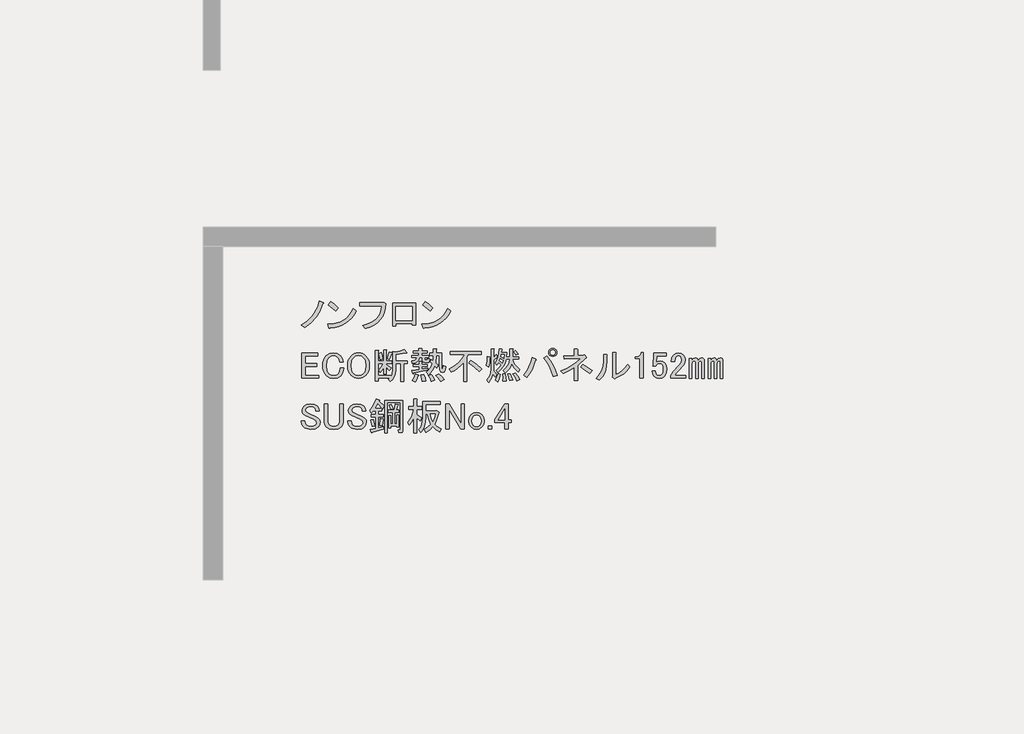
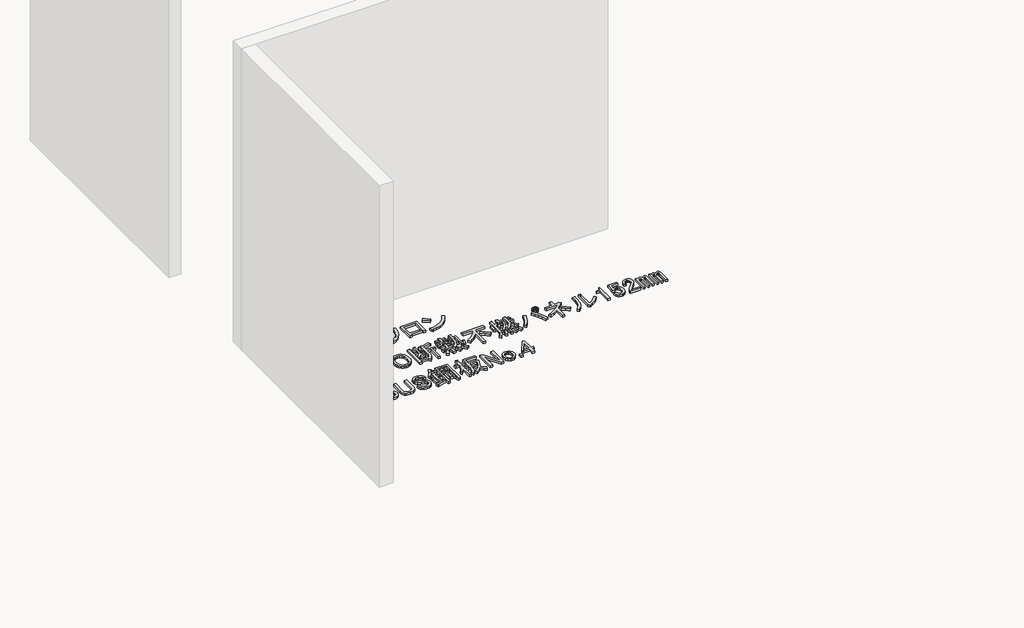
# One storey, part 55 of 117: 1 proxy.
"""IFC4 building model written with IfcOpenShell, lengths in millimetres."""

from ifc_helpers import new_model, si_unit, frame, origin, place, context, project, spatial, polyline, outline, extrude, element, save

model = new_model("IFC4")

# Units and contexts
model_context = context("Model", 3, world=origin())
ifc_project = project(units=[si_unit("LENGTHUNIT", "METRE", prefix="MILLI")], contexts=[model_context])

# Site, building, storey
site = spatial("IfcSite", under=ifc_project)
building = spatial("IfcBuilding", under=site)
storey = spatial("IfcBuildingStorey", under=building, Name="レベル 1", Elevation=500.0)

# Proxy
placement = place(None, origin())
element("IfcBuildingElementProxy", 1, Name="200㎜\u3000MS Pゴシック", ObjectType="200㎜\u3000MS Pゴシック", at=placement, inside=storey, context=model_context, shape_type="SweptSolid", body=[
    extrude(outline(polyline([(48940.1706985, -16603.5496882), (48914.5952502, -16663.3215225), (48886.146156, -16709.2998566), (48844.4782907, -16754.7034615), (48795.3389462, -16792.060858), (48767.7519457, -16770.2211493), (48815.4544673, -16739.7605029), (48855.1107805, -16701.2536481), (48872.4963381, -16677.3305462), (48887.8703435, -16649.2406577), (48901.2327969, -16616.9839827), (48912.5836981, -16580.5605212), (48943.6190736, -16594.3540214), (48946.7800841, -16598.9518548), (48940.1706985, -16603.5496882)])), frame((0.0, 0.0, 500.0), z_axis=(0.0, 0.0, 1.0), x_axis=(1.0, 0.0, 0.0)), (0.0, 0.0, 1.0), 25.0),
    extrude(outline(polyline([(49039.8977052, -16658.7236891), (48981.2753292, -16611.5958967), (49000.8161212, -16587.4572713), (49028.1157571, -16607.2854279), (49061.7374138, -16636.8839804), (49039.8977052, -16658.7236891)])), frame((0.0, 0.0, 500.0), z_axis=(0.0, 0.0, 1.0), x_axis=(1.0, 0.0, 0.0)), (0.0, 0.0, 1.0), 25.0),
    extrude(outline(polyline([(49201.9713328, -16658.7236891), (49185.447869, -16688.465924), (49166.3381239, -16714.4724192), (49144.6420975, -16736.7431748), (49120.3597898, -16755.2781907), (49093.4912008, -16770.077467), (49064.0363306, -16781.1410036), (49031.995179, -16788.4688006), (48997.3677461, -16792.060858), (48991.6204544, -16800.1070664), (48985.8731626, -16794.3597747), (48976.6774958, -16764.4738575), (49012.5082679, -16761.7977748), (49045.2857912, -16755.4937141), (49075.0100658, -16745.5616756), (49101.6810916, -16732.0016591), (49125.2988687, -16714.8136646), (49145.863397, -16693.9976923), (49163.3746766, -16669.553742), (49177.8327074, -16641.4818138), (49201.9713328, -16658.7236891)])), frame((0.0, 0.0, 500.0), z_axis=(0.0, 0.0, 1.0), x_axis=(1.0, 0.0, 0.0)), (0.0, 0.0, 1.0), 25.0),
    extrude(outline(polyline([(49252.7314136, -16773.6695243), (49286.514713, -16763.9889298), (49316.0234641, -16751.6142922), (49341.257667, -16736.5456116), (49362.2173217, -16718.782888), (49378.902428, -16698.3261214), (49391.3129862, -16675.1753118), (49399.4489961, -16649.3304591), (49403.3104577, -16620.7915635), (49230.8917049, -16620.7915635), (49230.8917049, -16595.5034798), (49405.6093744, -16595.5034798), (49421.7017914, -16592.0551047), (49434.3458332, -16603.5496882), (49430.825617, -16640.0449909), (49422.5638851, -16673.0919185), (49409.5606375, -16702.6904711), (49391.8158742, -16728.8406486), (49369.3295952, -16751.542451), (49342.1018005, -16770.7958784), (49310.1324901, -16786.6009308), (49273.421664, -16798.9576081), (49252.7314136, -16773.6695243)])), frame((0.0, 0.0, 500.0), z_axis=(0.0, 0.0, 1.0), x_axis=(1.0, 0.0, 0.0)), (0.0, 0.0, 1.0), 25.0),
    extrude(outline(polyline([(49667.455987, -16772.520066), (49641.0184449, -16772.520066), (49641.0184449, -16759.8760241), (49513.4285679, -16759.8760241), (49513.4285679, -16778.2673577), (49486.9910258, -16778.2673577), (49486.9910258, -16598.9518548), (49667.455987, -16598.9518548), (49667.455987, -16772.520066)]), holes=[polyline([(49513.4285679, -16624.2399386), (49513.4285679, -16734.5879404), (49641.0184449, -16734.5879404), (49641.0184449, -16624.2399386), (49513.4285679, -16624.2399386)])]), frame((0.0, 0.0, 500.0), z_axis=(0.0, 0.0, 1.0), x_axis=(1.0, 0.0, 0.0)), (0.0, 0.0, 1.0), 25.0),
    extrude(outline(polyline([(49943.5099049, -16658.7236891), (49926.9864411, -16688.465924), (49907.876696, -16714.4724192), (49886.1806696, -16736.7431748), (49861.8983619, -16755.2781907), (49835.0297729, -16770.077467), (49805.5749026, -16781.1410036), (49773.5337511, -16788.4688006), (49738.9063182, -16792.060858), (49733.1590264, -16800.1070664), (49727.4117347, -16794.3597747), (49718.2160679, -16764.4738575), (49754.0468399, -16761.7977748), (49786.8243633, -16755.4937141), (49816.5486378, -16745.5616756), (49843.2196637, -16732.0016591), (49866.8374407, -16714.8136646), (49887.4019691, -16693.9976923), (49904.9132486, -16669.553742), (49919.3712795, -16641.4818138), (49943.5099049, -16658.7236891)])), frame((0.0, 0.0, 500.0), z_axis=(0.0, 0.0, 1.0), x_axis=(1.0, 0.0, 0.0)), (0.0, 0.0, 1.0), 25.0),
    extrude(outline(polyline([(49781.4362772, -16658.7236891), (49722.8139013, -16611.5958967), (49742.3546933, -16587.4572713), (49769.6543291, -16607.2854279), (49803.2759859, -16636.8839804), (49781.4362772, -16658.7236891)])), frame((0.0, 0.0, 500.0), z_axis=(0.0, 0.0, 1.0), x_axis=(1.0, 0.0, 0.0)), (0.0, 0.0, 1.0), 25.0),
    extrude(outline(polyline([(48773.4992375, -16992.0551047), (48899.9396562, -16992.0551047), (48899.9396562, -17013.8948134), (48799.9367796, -17013.8948134), (48799.9367796, -17074.816106), (48893.0429061, -17074.816106), (48893.0429061, -17096.6558147), (48799.9367796, -17096.6558147), (48799.9367796, -17166.7727742), (48905.686948, -17166.7727742), (48905.686948, -17188.6124829), (48773.4992375, -17188.6124829), (48773.4992375, -16992.0551047)])), frame((0.0, 0.0, 500.0), z_axis=(0.0, 0.0, 1.0), x_axis=(1.0, 0.0, 0.0)), (0.0, 0.0, 1.0), 25.0),
    extrude(outline(polyline([(48937.7798252, -17090.908523), (48939.5758538, -17066.985421), (48944.9639399, -17045.7922827), (48953.9440832, -17027.3291079), (48966.516284, -17011.5958967), (48991.5170031, -16995.2161152), (49022.8397432, -16989.756188), (49053.5877541, -16994.641386), (49076.8642858, -17009.29698), (49092.6693381, -17032.8608762), (49098.7039944, -17062.1720642), (49071.116994, -17062.1720642), (49066.231796, -17040.9070847), (49056.1740354, -17025.3893969), (49040.9437123, -17015.0442717), (49022.8397432, -17011.5958967), (49003.2989512, -17015.6190009), (48986.0570759, -17027.6883136), (48977.0050914, -17039.3984206), (48970.5393882, -17053.8384911), (48965.3668256, -17090.908523), (48970.5393882, -17127.9785548), (48977.0050914, -17142.4186254), (48986.0570759, -17154.1287323), (49002.7242221, -17165.3359513), (49022.8397432, -17169.0716909), (49043.242629, -17165.9106804), (49058.4729521, -17156.427649), (49070.5422648, -17136.8868571), (49074.5653691, -17110.449315), (49102.1523695, -17110.449315), (49095.8303486, -17145.2204301), (49088.7899162, -17159.3731361), (49079.1632025, -17171.3706076), (49068.3151893, -17179.9197041), (49055.3119417, -17186.0262016), (49022.8397432, -17190.9113996), (48991.5170031, -17185.4514724), (48966.516284, -17169.0716909), (48953.9440832, -17153.4103209), (48944.9639399, -17135.1626695), (48939.5758538, -17114.3287369), (48937.7798252, -17090.908523)])), frame((0.0, 0.0, 500.0), z_axis=(0.0, 0.0, 1.0), x_axis=(1.0, 0.0, 0.0)), (0.0, 0.0, 1.0), 25.0),
    extrude(outline(polyline([(49133.1417667, -17089.7590646), (49134.8659542, -17066.9135799), (49140.0385168, -17046.6543764), (49148.6594544, -17028.9814543), (49160.7287671, -17013.8948134), (49173.4446501, -17003.3341648), (49187.4536738, -16995.7908443), (49202.7558381, -16991.2648521), (49219.3511431, -16989.756188), (49235.946448, -16991.2648521), (49251.2486123, -16995.7908443), (49265.257636, -17003.3341648), (49277.973519, -17013.8948134), (49290.0428317, -17028.9814543), (49298.6637694, -17046.6543764), (49303.836332, -17066.9135799), (49305.5605195, -17089.7590646), (49303.836332, -17112.6045494), (49298.6637694, -17132.8637528), (49290.0428317, -17150.536675), (49277.973519, -17165.6233159), (49265.257636, -17176.1839645), (49251.2486123, -17183.7272849), (49235.946448, -17188.2532772), (49219.3511431, -17189.7619413), (49202.7558381, -17188.2532772), (49187.4536738, -17183.7272849), (49173.4446501, -17176.1839645), (49160.7287671, -17165.6233159), (49148.6594544, -17150.536675), (49140.0385168, -17132.8637528), (49134.8659542, -17112.6045494), (49133.1417667, -17089.7590646)]), holes=[polyline([(49219.3511431, -17011.5958967), (49198.6608927, -17015.9063655), (49180.2695591, -17028.837772), (49171.7204626, -17039.9731498), (49165.6139651, -17053.8384911), (49160.7287671, -17089.7590646), (49165.6139651, -17125.6796381), (49171.7204626, -17139.5449795), (49180.2695591, -17150.6803573), (49198.6608927, -17163.6117637), (49219.3511431, -17167.9222326), (49240.0413934, -17163.6117637), (49258.432727, -17150.6803573), (49266.9818235, -17139.5449795), (49273.088321, -17125.6796381), (49277.973519, -17089.7590646), (49273.088321, -17053.8384911), (49266.9818235, -17039.9731498), (49258.432727, -17028.837772), (49240.0413934, -17015.9063655), (49219.3511431, -17011.5958967)])]), frame((0.0, 0.0, 500.0), z_axis=(0.0, 0.0, 1.0), x_axis=(1.0, 0.0, 0.0)), (0.0, 0.0, 1.0), 25.0),
    extrude(outline(polyline([(49444.3691101, -17035.7345221), (49461.6109854, -16982.8594379), (49482.3012357, -16988.6067296), (49484.0254232, -16991.7677401), (49480.002319, -16994.3540214), (49462.7604437, -17042.6312722), (49444.3691101, -17035.7345221)])), frame((0.0, 0.0, 500.0), z_axis=(0.0, 0.0, 1.0), x_axis=(1.0, 0.0, 0.0)), (0.0, 0.0, 1.0), 25.0),
    extrude(outline(polyline([(49598.3965292, -16987.4572713), (49596.6723417, -16992.0551047), (49589.2008624, -16989.756188), (49512.1871528, -17002.4002299), (49512.1871528, -17051.826939), (49604.143821, -17051.826939), (49604.143821, -17073.6666477), (49573.1084455, -17073.6666477), (49573.1084455, -17213.9005666), (49550.1192785, -17213.9005666), (49550.1192785, -17073.6666477), (49512.1871528, -17073.6666477), (49512.1871528, -17123.0933568), (49509.6008716, -17150.8958807), (49501.8420277, -17175.6810764), (49488.9106212, -17197.448944), (49470.8066522, -17216.1994833), (49453.5647769, -17196.6586914), (49463.9099021, -17187.4630245), (49374.2521506, -17187.4630245), (49374.2521506, -17209.3027332), (49351.2629836, -17209.3027332), (49351.2629836, -16970.215396), (49373.1026922, -16970.215396), (49377.9878902, -16972.5143127), (49374.2521506, -16977.1121461), (49374.2521506, -17052.9763974), (49416.7821096, -17052.9763974), (49416.7821096, -16965.6175626), (49435.1734433, -16965.6175626), (49440.0586413, -16967.9164793), (49436.3229016, -16972.5143127), (49436.3229016, -17052.9763974), (49480.002319, -17052.9763974), (49480.002319, -17071.367731), (49436.3229016, -17071.367731), (49436.3229016, -17080.5633978), (49476.5539439, -17107.0009399), (49462.7604437, -17128.8406486), (49436.3229016, -17102.4031065), (49436.3229016, -17155.2781907), (49416.7821096, -17155.2781907), (49416.7821096, -17107.0009399), (49403.5633386, -17126.8290965), (49389.1951092, -17142.6341488), (49376.5510673, -17124.2428152), (49398.390776, -17100.1041898), (49415.6326513, -17071.367731), (49374.2521506, -17071.367731), (49374.2521506, -17165.6233159), (49471.9561105, -17165.6233159), (49471.9561105, -17179.4168161), (49484.887517, -17155.2781907), (49489.1979858, -17121.9438985), (49489.1979858, -16977.1121461), (49511.0376945, -16982.8594379), (49547.2456326, -16975.3879586), (49577.7062789, -16962.1691875), (49598.3965292, -16987.4572713)])), frame((0.0, 0.0, 500.0), z_axis=(0.0, 0.0, 1.0), x_axis=(1.0, 0.0, 0.0)), (0.0, 0.0, 1.0), 25.0),
    extrude(outline(polyline([(49390.3445675, -17043.7807305), (49377.7005257, -16993.2045631), (49397.2413176, -16986.3078129), (49405.0001615, -17010.4464383), (49409.8853595, -17036.8839804), (49390.3445675, -17043.7807305)])), frame((0.0, 0.0, 500.0), z_axis=(0.0, 0.0, 1.0), x_axis=(1.0, 0.0, 0.0)), (0.0, 0.0, 1.0), 25.0),
    extrude(outline(polyline([(49734.0326148, -17159.8760241), (49744.0903754, -17187.17566), (49748.9755734, -17209.3027332), (49720.2391146, -17215.050025), (49717.6528333, -17193.4976809), (49709.8939894, -17163.3243992), (49734.0326148, -17159.8760241)])), frame((0.0, 0.0, 500.0), z_axis=(0.0, 0.0, 1.0), x_axis=(1.0, 0.0, 0.0)), (0.0, 0.0, 1.0), 25.0),
    extrude(outline(polyline([(49790.356074, -17212.7511083), (49782.022501, -17188.0377537), (49768.5163654, -17166.7727742), (49789.2066157, -17158.7265657), (49806.1611264, -17180.2789098), (49817.9430745, -17203.5554415), (49790.356074, -17212.7511083)])), frame((0.0, 0.0, 500.0), z_axis=(0.0, 0.0, 1.0), x_axis=(1.0, 0.0, 0.0)), (0.0, 0.0, 1.0), 25.0),
    extrude(outline(polyline([(49689.2037391, -17164.4738575), (49692.6521141, -17169.3590555), (49686.9048224, -17172.520066), (49677.1344264, -17198.0955143), (49666.214572, -17217.3489417), (49643.225405, -17205.8543582), (49655.8694469, -17182.290462), (49666.214572, -17155.2781907), (49689.2037391, -17164.4738575)])), frame((0.0, 0.0, 500.0), z_axis=(0.0, 0.0, 1.0), x_axis=(1.0, 0.0, 0.0)), (0.0, 0.0, 1.0), 25.0),
    extrude(outline(polyline([(49721.3885729, -17027.6883136), (49696.1004892, -17027.6883136), (49691.5026558, -17045.1457123), (49681.1575306, -17058.4363245), (49665.0651137, -17067.5601502), (49643.225405, -17072.5171893), (49638.6275716, -17052.9763974), (49663.9156553, -17044.3554597), (49671.3871346, -17037.0276627), (49675.4102388, -17027.6883136), (49639.7770299, -17027.6883136), (49639.7770299, -17009.29698), (49693.8015725, -17009.29698), (49693.8015725, -16992.0551047), (49650.1221551, -16992.0551047), (49650.1221551, -16973.6637711), (49693.8015725, -16973.6637711), (49693.8015725, -16955.2724374), (49715.6412812, -16955.2724374), (49720.5264792, -16957.5713541), (49716.7907395, -16962.1691875), (49716.7907395, -16973.6637711), (49759.3206985, -16973.6637711), (49759.3206985, -16992.0551047), (49716.7907395, -16992.0551047), (49716.7907395, -17009.29698), (49769.6658237, -17009.29698), (49769.6658237, -17027.6883136), (49740.9293649, -17027.6883136), (49740.9293649, -17040.3323555), (49742.3661878, -17045.5049181), (49746.6766567, -17047.2291056), (49757.0217818, -17047.2291056), (49760.7575215, -17044.0680951), (49760.4701569, -17034.5850637), (49780.0109489, -17036.8839804), (49777.137303, -17058.4363245), (49771.8210581, -17063.8244106), (49763.9185319, -17065.6204392), (49739.7799066, -17065.6204392), (49725.9864063, -17060.7352412), (49721.3885729, -17046.0796472), (49721.3885729, -17027.6883136)])), frame((0.0, 0.0, 500.0), z_axis=(0.0, 0.0, 1.0), x_axis=(1.0, 0.0, 0.0)), (0.0, 0.0, 1.0), 25.0),
    extrude(outline(polyline([(49852.4268251, -17010.4464383), (49830.5871164, -17010.4464383), (49825.989283, -17067.9193559), (49845.5300749, -17086.3106896), (49835.1849498, -17108.1503983), (49819.0925328, -17092.0579813), (49799.8391054, -17129.7027424), (49769.6658237, -17162.1749408), (49752.4239484, -17141.4846905), (49767.5105893, -17129.5590601), (49780.585678, -17114.4724192), (49791.6492147, -17096.2247679), (49800.7011992, -17074.816106), (49783.4593239, -17059.8731475), (49791.5055324, -17042.6312722), (49805.2990326, -17052.9763974), (49807.5979493, -17010.4464383), (49780.0109489, -17010.4464383), (49780.0109489, -16992.0551047), (49807.5979493, -16992.0551047), (49807.5979493, -16957.5713541), (49829.437658, -16957.5713541), (49834.322856, -16959.8702708), (49830.5871164, -16964.4681043), (49830.5871164, -16992.0551047), (49871.967617, -16992.0551047), (49871.967617, -17088.6096063), (49875.4159921, -17112.7482317), (49878.6488437, -17114.7597838), (49881.4506484, -17111.5987733), (49885.7611173, -17089.7590646), (49905.3019092, -17096.6558147), (49900.775917, -17123.4525626), (49892.945232, -17139.4731384), (49881.8098542, -17144.7175421), (49867.3697836, -17139.1857738), (49860.8322393, -17131.8579768), (49856.1625647, -17120.219711), (49852.4268251, -17084.0117729), (49852.4268251, -17010.4464383)])), frame((0.0, 0.0, 500.0), z_axis=(0.0, 0.0, 1.0), x_axis=(1.0, 0.0, 0.0)), (0.0, 0.0, 1.0), 25.0),
    extrude(outline(polyline([(49651.2716134, -17149.5308989), (49649.2600613, -17154.4160969), (49645.5243217, -17152.979274), (49639.7770299, -17128.8406486), (49694.9510308, -17120.7944401), (49694.9510308, -17097.8052731), (49651.2716134, -17097.8052731), (49651.2716134, -17079.4139395), (49694.9510308, -17079.4139395), (49694.9510308, -17056.4247724), (49713.3423645, -17056.4247724), (49718.2275625, -17058.7236891), (49714.4918228, -17063.3215225), (49714.4918228, -17079.4139395), (49759.3206985, -17079.4139395), (49759.3206985, -17097.8052731), (49714.4918228, -17097.8052731), (49714.4918228, -17117.3460651), (49765.0679903, -17108.1503983), (49765.0679903, -17124.2428152), (49651.2716134, -17149.5308989)])), frame((0.0, 0.0, 500.0), z_axis=(0.0, 0.0, 1.0), x_axis=(1.0, 0.0, 0.0)), (0.0, 0.0, 1.0), 25.0),
    extrude(outline(polyline([(49848.97845, -17154.1287323), (49873.6918046, -17175.3937119), (49892.6578674, -17200.1070664), (49866.2203253, -17215.050025), (49846.9668979, -17185.4514724), (49828.2881997, -17165.6233159), (49848.97845, -17154.1287323)])), frame((0.0, 0.0, 500.0), z_axis=(0.0, 0.0, 1.0), x_axis=(1.0, 0.0, 0.0)), (0.0, 0.0, 1.0), 25.0),
    extrude(outline(polyline([(50167.3784135, -17138.0363154), (50128.2968295, -17099.8168252), (50086.9163289, -17070.2182726), (50103.0087458, -17049.5280223), (50146.6881632, -17077.6897519), (50188.0686638, -17116.1966067), (50167.3784135, -17138.0363154)])), frame((0.0, 0.0, 500.0), z_axis=(0.0, 0.0, 1.0), x_axis=(1.0, 0.0, 0.0)), (0.0, 0.0, 1.0), 25.0),
    extrude(outline(polyline([(49940.9351182, -16977.1121461), (50182.3213721, -16977.1121461), (50182.3213721, -17002.4002299), (50082.3184955, -17002.4002299), (50071.9733703, -17026.5388553), (50071.9733703, -17212.7511083), (50045.5358282, -17212.7511083), (50045.5358282, -17065.6204392), (50024.7018956, -17088.8969709), (50001.2816816, -17109.2998566), (49975.2751864, -17126.8290965), (49946.6824099, -17141.4846905), (49930.589993, -17115.0471484), (49970.174465, -17094.6442626), (50003.8679629, -17069.0688143), (50031.6704868, -17038.3208034), (50053.5820367, -17002.4002299), (49940.9351182, -17002.4002299), (49940.9351182, -16977.1121461)])), frame((0.0, 0.0, 500.0), z_axis=(0.0, 0.0, 1.0), x_axis=(1.0, 0.0, 0.0)), (0.0, 0.0, 1.0), 25.0),
    extrude(outline(polyline([(50354.7401249, -17211.6016499), (50355.3148541, -17184.5893787), (50352.4412082, -17156.427649), (50371.9820002, -17155.2781907), (50378.3040211, -17181.4283682), (50378.8787503, -17209.3027332), (50354.7401249, -17211.6016499)])), frame((0.0, 0.0, 500.0), z_axis=(0.0, 0.0, 1.0), x_axis=(1.0, 0.0, 0.0)), (0.0, 0.0, 1.0), 25.0),
    extrude(outline(polyline([(50335.1993329, -17159.8760241), (50326.5783953, -17190.3366704), (50312.2101659, -17217.3489417), (50292.6693739, -17204.7048998), (50306.7502387, -17179.9915453), (50316.8079993, -17151.8298156), (50335.1993329, -17159.8760241)])), frame((0.0, 0.0, 500.0), z_axis=(0.0, 0.0, 1.0), x_axis=(1.0, 0.0, 0.0)), (0.0, 0.0, 1.0), 25.0),
    extrude(outline(polyline([(50250.1394149, -17021.9410219), (50254.7372483, -17024.2399386), (50250.1394149, -17028.837772), (50248.9899565, -17068.4940851), (50243.2426647, -17102.4031065), (50224.8513311, -17089.7590646), (50230.5986229, -17055.2753141), (50231.7480812, -17018.4926468), (50250.1394149, -17021.9410219)])), frame((0.0, 0.0, 500.0), z_axis=(0.0, 0.0, 1.0), x_axis=(1.0, 0.0, 0.0)), (0.0, 0.0, 1.0), 25.0),
    extrude(outline(polyline([(50301.8650407, -17003.5496882), (50311.0607075, -17020.7915635), (50312.4975305, -17026.8262199), (50307.6123325, -17026.5388553), (50281.1747904, -17047.2291056), (50281.1747904, -17131.1395653), (50294.9682906, -17143.4962426), (50306.4628741, -17159.8760241), (50293.8188322, -17180.5662744), (50275.4274986, -17155.2781907), (50263.6455505, -17191.1987642), (50242.0932064, -17220.7973168), (50227.1502478, -17202.4059831), (50242.2368887, -17183.6554438), (50253.0130607, -17163.0370346), (50259.478764, -17140.5507556), (50261.6339984, -17116.1966067), (50261.6339984, -16958.7208125), (50280.025332, -16958.7208125), (50284.91053, -16961.0197292), (50281.1747904, -16965.6175626), (50281.1747904, -17024.2399386), (50301.8650407, -17003.5496882)])), frame((0.0, 0.0, 500.0), z_axis=(0.0, 0.0, 1.0), x_axis=(1.0, 0.0, 0.0)), (0.0, 0.0, 1.0), 25.0),
    extrude(outline(polyline([(50452.4440848, -16972.5143127), (50474.2837935, -16996.6529381), (50457.0419182, -17008.1475216), (50450.4325327, -16996.6529381), (50437.5011262, -16982.8594379), (50452.4440848, -16972.5143127)])), frame((0.0, 0.0, 500.0), z_axis=(0.0, 0.0, 1.0), x_axis=(1.0, 0.0, 0.0)), (0.0, 0.0, 1.0), 25.0),
    extrude(outline(polyline([(50462.78921, -17209.3027332), (50449.5704389, -17181.1410036), (50432.9032928, -17156.427649), (50451.2946265, -17148.3814406), (50470.2606893, -17171.3706076), (50485.778377, -17198.9576081), (50462.78921, -17209.3027332)])), frame((0.0, 0.0, 500.0), z_axis=(0.0, 0.0, 1.0), x_axis=(1.0, 0.0, 0.0)), (0.0, 0.0, 1.0), 25.0),
    extrude(outline(polyline([(50413.3625008, -17154.1287323), (50431.7538345, -17203.5554415), (50407.6152091, -17208.1532749), (50393.8217089, -17157.5771074), (50413.3625008, -17154.1287323)])), frame((0.0, 0.0, 500.0), z_axis=(0.0, 0.0, 1.0), x_axis=(1.0, 0.0, 0.0)), (0.0, 0.0, 1.0), 25.0),
    extrude(outline(polyline([(50474.2837935, -17139.1857738), (50443.5357826, -17108.7251274), (50422.5581677, -17074.816106), (50414.1527535, -17096.9431793), (50402.7300111, -17116.1966067), (50388.2899405, -17132.5763882), (50370.8325418, -17146.0825239), (50357.0390416, -17127.6911902), (50377.8729742, -17108.7969686), (50393.2469797, -17087.7475125), (50403.161058, -17064.542822), (50407.6152091, -17039.1828971), (50378.8787503, -17039.1828971), (50370.904383, -17069.7872258), (50357.3264062, -17097.2305439), (50338.1448199, -17121.5128516), (50313.3596242, -17142.6341488), (50300.7155823, -17126.5417319), (50326.5783953, -17104.9893878), (50342.096083, -17084.0117729), (50320.2563743, -17064.4709809), (50306.4628741, -17085.1612312), (50292.6693739, -17070.2182726), (50305.0978923, -17051.1803687), (50314.7964472, -17026.2514907), (50321.7650384, -16995.4316386), (50326.0036661, -16958.7208125), (50346.6939164, -16961.0197292), (50350.1422915, -16963.6060105), (50344.3949997, -16966.767021), (50342.096083, -16985.1583546), (50385.7755004, -16985.1583546), (50382.3271253, -17020.7915635), (50407.6152091, -17020.7915635), (50407.6152091, -16958.7208125), (50429.4549178, -16958.7208125), (50434.3401158, -16961.0197292), (50430.6043761, -16965.6175626), (50430.6043761, -17020.7915635), (50480.0310853, -17020.7915635), (50480.0310853, -17039.1828971), (50430.6043761, -17039.1828971), (50437.1419205, -17060.9507647), (50448.7083452, -17081.4254916), (50465.3036501, -17100.6070778), (50486.9278354, -17118.4955234), (50474.2837935, -17139.1857738)]), holes=[polyline([(50350.1422915, -17069.0688143), (50357.0390416, -17049.5280223), (50331.7509579, -17033.4356054), (50326.0036661, -17050.6774807), (50350.1422915, -17069.0688143)]), polyline([(50339.7971663, -17003.5496882), (50336.3487913, -17019.6421052), (50361.636875, -17033.4356054), (50366.2347084, -17003.5496882), (50339.7971663, -17003.5496882)])]), frame((0.0, 0.0, 500.0), z_axis=(0.0, 0.0, 1.0), x_axis=(1.0, 0.0, 0.0)), (0.0, 0.0, 1.0), 25.0),
    extrude(outline(polyline([(50699.5776305, -17012.745355), (50726.230696, -17049.4561812), (50748.7169751, -17087.1727833), (50767.0364675, -17125.8951616), (50781.1891735, -17165.6233159), (50750.153798, -17175.968441), (50734.7079514, -17132.8637528), (50717.1068704, -17094.356898), (50697.3505549, -17060.4478766), (50675.4390051, -17031.1366887), (50699.5776305, -17012.745355)])), frame((0.0, 0.0, 500.0), z_axis=(0.0, 0.0, 1.0), x_axis=(1.0, 0.0, 0.0)), (0.0, 0.0, 1.0), 25.0),
    extrude(outline(polyline([(50612.2187958, -17039.1828971), (50616.2419, -17044.6428243), (50609.919879, -17049.5280223), (50597.9942486, -17084.9457078), (50582.9076078, -17118.782888), (50564.6599564, -17151.039563), (50543.2512946, -17181.7157328), (50516.8137525, -17164.4738575), (50540.018443, -17133.0074351), (50559.056347, -17099.5294606), (50573.9274644, -17064.039934), (50584.6317953, -17026.5388553), (50612.2187958, -17039.1828971)])), frame((0.0, 0.0, 500.0), z_axis=(0.0, 0.0, 1.0), x_axis=(1.0, 0.0, 0.0)), (0.0, 0.0, 1.0), 25.0),
    extrude(outline(polyline([(50745.5559646, -17018.4926468), (50732.9119227, -17016.1937301), (50722.5667975, -17009.29698), (50715.6700474, -16998.9518548), (50713.3711307, -16986.3078129), (50715.6700474, -16973.6637711), (50722.5667975, -16963.3186459), (50732.9119227, -16956.4218958), (50745.5559646, -16954.1229791), (50758.2000065, -16956.4218958), (50768.5451316, -16963.3186459), (50775.4418817, -16973.6637711), (50777.7407984, -16986.3078129), (50775.4418817, -16998.9518548), (50768.5451316, -17009.29698), (50758.2000065, -17016.1937301), (50745.5559646, -17018.4926468)]), holes=[polyline([(50745.5559646, -17006.9980633), (50753.8895376, -17005.5612403), (50760.4989232, -17001.2507715), (50764.809392, -16994.641386), (50766.2462149, -16986.3078129), (50764.809392, -16977.9742399), (50760.4989232, -16971.3648544), (50753.8895376, -16967.0543855), (50745.5559646, -16965.6175626), (50737.2223915, -16967.0543855), (50730.613006, -16971.3648544), (50726.3025372, -16977.9742399), (50724.8657143, -16986.3078129), (50726.3025372, -16994.641386), (50730.613006, -17001.2507715), (50737.2223915, -17005.5612403), (50745.5559646, -17006.9980633)])]), frame((0.0, 0.0, 500.0), z_axis=(0.0, 0.0, 1.0), x_axis=(1.0, 0.0, 0.0)), (0.0, 0.0, 1.0), 25.0),
    extrude(outline(polyline([(50989.2411352, -17008.1475216), (50996.1378853, -17005.8486049), (51008.7819272, -17023.0904802), (51009.9313856, -17029.1251366), (51004.1840938, -17031.1366887), (50940.9638844, -17087.4601479), (50940.9638844, -17208.1532749), (50914.5263423, -17208.1532749), (50914.5263423, -17105.8514816), (50874.2953, -17129.9901069), (50829.4664243, -17151.8298156), (50809.9256323, -17131.1395653), (50855.4729195, -17111.6706145), (50896.7097379, -17088.8969709), (50933.6360874, -17062.8186345), (50966.2519682, -17033.4356054), (50836.3631744, -17039.1828971), (50832.9147993, -17013.8948134), (50914.5263423, -17011.5958967), (50914.5263423, -16959.8702708), (50937.5155094, -16959.8702708), (50943.5501657, -16963.3186459), (50940.9638844, -16969.0659377), (50940.9638844, -17010.4464383), (50989.2411352, -17008.1475216)])), frame((0.0, 0.0, 500.0), z_axis=(0.0, 0.0, 1.0), x_axis=(1.0, 0.0, 0.0)), (0.0, 0.0, 1.0), 25.0),
    extrude(outline(polyline([(51035.2194693, -17151.8298156), (50998.1494375, -17122.5186277), (50965.1025098, -17101.2536481), (50982.3443851, -17079.4139395), (51021.1386045, -17102.6904711), (51054.7602613, -17128.8406486), (51035.2194693, -17151.8298156)])), frame((0.0, 0.0, 500.0), z_axis=(0.0, 0.0, 1.0), x_axis=(1.0, 0.0, 0.0)), (0.0, 0.0, 1.0), 25.0),
    extrude(outline(polyline([(51242.2139293, -17158.7265657), (51266.9991251, -17146.5135708), (51290.7785447, -17129.4153778), (51313.5521883, -17107.4319868), (51335.3200559, -17080.5633978), (51351.4124728, -17102.4031065), (51328.1359412, -17130.2056304), (51301.9857636, -17153.8413678), (51272.9619403, -17173.3103186), (51241.064471, -17188.6124829), (51231.8688042, -17193.2103163), (51213.4774705, -17179.4168161), (51215.7763872, -17173.6695243), (51215.7763872, -16988.6067296), (51239.9150126, -16988.6067296), (51245.6623044, -16992.0551047), (51242.2139293, -16997.8023965), (51242.2139293, -17158.7265657)])), frame((0.0, 0.0, 500.0), z_axis=(0.0, 0.0, 1.0), x_axis=(1.0, 0.0, 0.0)), (0.0, 0.0, 1.0), 25.0),
    extrude(outline(polyline([(51088.1865102, -17189.7619413), (51113.3309116, -17160.5225944), (51131.2911984, -17127.9785548), (51142.0673704, -17092.1298225), (51145.6594278, -17052.9763974), (51145.6594278, -17001.2507715), (51169.7980532, -17001.2507715), (51175.5453449, -17004.6991466), (51172.0969699, -17010.4464383), (51172.0969699, -17051.826939), (51168.2893891, -17097.5897496), (51156.8666467, -17138.32368), (51137.8287427, -17174.0287301), (51111.1756772, -17204.7048998), (51088.1865102, -17189.7619413)])), frame((0.0, 0.0, 500.0), z_axis=(0.0, 0.0, 1.0), x_axis=(1.0, 0.0, 0.0)), (0.0, 0.0, 1.0), 25.0),
    extrude(outline(polyline([(51430.7250991, -17011.5958967), (51438.7713075, -17000.6760423), (51442.2196826, -16988.6067296), (51456.0131828, -16988.6067296), (51456.0131828, -17187.4630245), (51429.5756407, -17187.4630245), (51429.5756407, -17034.5850637), (51395.0918902, -17034.5850637), (51395.0918902, -17020.7915635), (51405.4370153, -17020.7915635), (51419.8052447, -17018.4926468), (51430.7250991, -17011.5958967)])), frame((0.0, 0.0, 500.0), z_axis=(0.0, 0.0, 1.0), x_axis=(1.0, 0.0, 0.0)), (0.0, 0.0, 1.0), 25.0),
    extrude(outline(polyline([(51539.9236425, -16992.0551047), (51638.7770608, -16992.0551047), (51638.7770608, -17013.8948134), (51561.7633512, -17013.8948134), (51561.7633512, -17017.3431884), (51558.3149762, -17059.8731475), (51557.1655178, -17066.7698976), (51572.6832056, -17056.4247724), (51589.3503517, -17052.9763974), (51610.3279666, -17056.712137), (51627.2824773, -17067.9193559), (51639.35179, -17087.7475125), (51643.3748942, -17115.0471484), (51638.2023316, -17149.5308989), (51631.7366284, -17163.3243992), (51622.6846439, -17174.8189827), (51604.5806748, -17186.8882954), (51582.4536015, -17190.9113996), (51561.4759866, -17187.17566), (51544.5214759, -17175.968441), (51532.4521632, -17157.2897428), (51526.1301423, -17131.1395653), (51552.5676844, -17131.1395653), (51556.5907886, -17149.8182635), (51564.0622679, -17162.1749408), (51571.8211118, -17167.3475034), (51581.3041432, -17169.0716909), (51593.6608205, -17167.0601388), (51603.1438519, -17161.0254825), (51612.6268833, -17144.0709718), (51615.7878938, -17118.4955234), (51613.2016125, -17094.356898), (51605.4427686, -17079.4139395), (51597.9712893, -17074.2413769), (51589.3503517, -17072.5171893), (51576.4189452, -17075.1034706), (51565.2117263, -17082.8623145), (51556.0160594, -17093.2074397), (51533.0268924, -17093.2074397), (51534.1763508, -17085.1612312), (51539.9236425, -16996.6529381), (51539.9236425, -16992.0551047)])), frame((0.0, 0.0, 500.0), z_axis=(0.0, 0.0, 1.0), x_axis=(1.0, 0.0, 0.0)), (0.0, 0.0, 1.0), 25.0),
    extrude(outline(polyline([(51677.8586448, -17058.7236891), (51682.4564782, -17027.400949), (51696.2499784, -17004.6991466), (51712.6297599, -16993.4919276), (51731.8831873, -16989.756188), (51754.5849898, -16993.4919276), (51772.1142296, -17004.6991466), (51783.3214486, -17021.3662927), (51787.0571882, -17041.4818138), (51782.7467194, -17067.3446268), (51769.8153129, -17089.7590646), (51736.4810207, -17127.6911902), (51718.0896871, -17148.3814406), (51704.2961869, -17166.7727742), (51790.5055633, -17166.7727742), (51790.5055633, -17188.6124829), (51673.2608114, -17188.6124829), (51673.2608114, -17169.0716909), (51679.2954677, -17155.2781907), (51692.8016033, -17136.8868571), (51739.9293958, -17085.1612312), (51754.5849898, -17063.8962517), (51759.4701878, -17041.4818138), (51757.1712711, -17028.837772), (51750.2745209, -17018.4926468), (51742.5156771, -17013.3200842), (51733.0326457, -17011.5958967), (51724.411708, -17013.3200842), (51716.9402287, -17018.4926468), (51707.4571973, -17034.8724283), (51704.2961869, -17058.7236891), (51677.8586448, -17058.7236891)])), frame((0.0, 0.0, 500.0), z_axis=(0.0, 0.0, 1.0), x_axis=(1.0, 0.0, 0.0)), (0.0, 0.0, 1.0), 25.0),
    extrude(outline(polyline([(51839.9322724, -17189.7619413), (51820.3914804, -17189.7619413), (51820.3914804, -17032.286147), (51839.9322724, -17032.286147), (51839.9322724, -17049.5280223), (51852.0015851, -17034.0103346), (51865.2203561, -17028.837772), (51874.416023, -17030.2745949), (51881.3127731, -17034.5850637), (51888.2095232, -17048.378564), (51901.1409296, -17033.72297), (51914.6470653, -17028.837772), (51922.9806383, -17030.2745949), (51929.5900239, -17034.5850637), (51934.7625864, -17043.2060014), (51936.486774, -17055.2753141), (51936.486774, -17189.7619413), (51916.945982, -17189.7619413), (51916.945982, -17065.6204392), (51914.3597007, -17056.1374078), (51906.6008568, -17052.9763974), (51896.2557317, -17057.5742308), (51890.2210753, -17066.1951684), (51888.2095232, -17075.9655644), (51888.2095232, -17189.7619413), (51868.6687312, -17189.7619413), (51868.6687312, -17065.6204392), (51866.0824499, -17056.1374078), (51858.323606, -17052.9763974), (51847.9784809, -17057.5742308), (51841.9438245, -17066.1951684), (51839.9322724, -17075.9655644), (51839.9322724, -17189.7619413)])), frame((0.0, 0.0, 500.0), z_axis=(0.0, 0.0, 1.0), x_axis=(1.0, 0.0, 0.0)), (0.0, 0.0, 1.0), 25.0),
    extrude(outline(polyline([(52061.7777343, -17028.837772), (52070.1113074, -17030.2745949), (52076.7206929, -17034.5850637), (52081.8932555, -17043.2060014), (52083.617443, -17055.2753141), (52083.617443, -17189.7619413), (52064.0766511, -17189.7619413), (52064.0766511, -17065.6204392), (52061.4903698, -17056.1374078), (52053.7315259, -17052.9763974), (52043.3864007, -17057.5742308), (52037.3517444, -17066.1951684), (52035.3401922, -17075.9655644), (52035.3401922, -17189.7619413), (52015.7994003, -17189.7619413), (52015.7994003, -17065.6204392), (52013.213119, -17056.1374078), (52005.4542751, -17052.9763974), (51995.1091499, -17057.5742308), (51989.0744936, -17066.1951684), (51987.0629415, -17075.9655644), (51987.0629415, -17189.7619413), (51967.5221495, -17189.7619413), (51967.5221495, -17032.286147), (51987.0629415, -17032.286147), (51987.0629415, -17049.5280223), (51999.1322542, -17034.0103346), (52012.3510252, -17028.837772), (52021.546692, -17030.2745949), (52028.4434421, -17034.5850637), (52035.3401922, -17048.378564), (52048.2715987, -17033.72297), (52061.7777343, -17028.837772)])), frame((0.0, 0.0, 500.0), z_axis=(0.0, 0.0, 1.0), x_axis=(1.0, 0.0, 0.0)), (0.0, 0.0, 1.0), 25.0),
    extrude(outline(polyline([(48775.7981542, -17443.7807305), (48779.8212584, -17423.3778448), (48791.8905711, -17405.8486049), (48812.2934569, -17393.7792922), (48841.3172803, -17389.756188), (48872.6400204, -17394.3540214), (48895.3418228, -17408.1475216), (48907.4111355, -17425.6767615), (48911.4342397, -17446.0796472), (48884.9966976, -17446.0796472), (48882.6977809, -17433.4356054), (48875.8010308, -17423.0904802), (48862.5822598, -17415.3316363), (48843.616197, -17412.745355), (48823.2133112, -17415.0442717), (48810.2819048, -17421.9410219), (48804.2472484, -17430.5619595), (48802.2356963, -17440.3323555), (48806.8335297, -17455.2753141), (48827.52378, -17466.7698976), (48887.2956143, -17493.2074397), (48904.5374896, -17504.7020232), (48914.020521, -17518.4955234), (48917.1815315, -17534.5879404), (48913.1584273, -17555.8529199), (48901.0891146, -17573.6695243), (48891.1031951, -17581.2128448), (48878.3873121, -17586.6009308), (48844.7656553, -17590.9113996), (48811.1439985, -17585.738837), (48797.5660217, -17579.2731338), (48786.1432794, -17570.2211493), (48774.9360604, -17551.8298156), (48771.2003208, -17526.5417319), (48797.6378629, -17526.5417319), (48799.9367796, -17544.3583363), (48806.8335297, -17556.427649), (48822.9259466, -17565.9106804), (48845.9151137, -17569.0716909), (48866.8927286, -17566.198045), (48881.5483226, -17557.5771074), (48888.4450727, -17548.3814406), (48890.7439894, -17539.1857738), (48889.0198019, -17529.7027424), (48883.8472393, -17521.9438985), (48865.4559057, -17510.449315), (48835.5699885, -17496.6558147), (48802.2356963, -17481.7128562), (48786.1432794, -17471.367731), (48778.3844355, -17459.2984183), (48775.7981542, -17443.7807305)])), frame((0.0, 0.0, 500.0), z_axis=(0.0, 0.0, 1.0), x_axis=(1.0, 0.0, 0.0)), (0.0, 0.0, 1.0), 25.0),
    extrude(outline(polyline([(48951.2054987, -17392.0551047), (48977.6430408, -17392.0551047), (48977.6430408, -17529.9901069), (48980.2293221, -17544.6457009), (48987.988166, -17556.427649), (49003.5058537, -17565.9106804), (49024.7708332, -17569.0716909), (49046.0358128, -17565.9106804), (49061.5535005, -17556.427649), (49069.3123444, -17544.6457009), (49071.8986257, -17529.9901069), (49071.8986257, -17392.0551047), (49098.3361678, -17392.0551047), (49098.3361678, -17531.1395653), (49094.3130635, -17554.1287323), (49082.2437508, -17572.520066), (49071.7549434, -17580.5662744), (49058.6798546, -17586.3135662), (49024.7708332, -17590.9113996), (48990.8618119, -17586.3135662), (48977.7867231, -17580.5662744), (48967.2979156, -17572.520066), (48955.2286029, -17554.1287323), (48951.2054987, -17531.1395653), (48951.2054987, -17392.0551047)])), frame((0.0, 0.0, 500.0), z_axis=(0.0, 0.0, 1.0), x_axis=(1.0, 0.0, 0.0)), (0.0, 0.0, 1.0), 25.0),
    extrude(outline(polyline([(49140.6822135, -17443.7807305), (49144.7053177, -17423.3778448), (49156.7746304, -17405.8486049), (49177.1775161, -17393.7792922), (49206.2013395, -17389.756188), (49237.5240796, -17394.3540214), (49260.2258821, -17408.1475216), (49272.2951948, -17425.6767615), (49276.318299, -17446.0796472), (49249.8807569, -17446.0796472), (49247.5818402, -17433.4356054), (49240.6850901, -17423.0904802), (49227.466319, -17415.3316363), (49208.5002562, -17412.745355), (49188.0973705, -17415.0442717), (49175.165964, -17421.9410219), (49169.1313077, -17430.5619595), (49167.1197556, -17440.3323555), (49171.717589, -17455.2753141), (49192.4078393, -17466.7698976), (49252.1796736, -17493.2074397), (49269.4215489, -17504.7020232), (49278.9045803, -17518.4955234), (49282.0655908, -17534.5879404), (49278.0424865, -17555.8529199), (49265.9731738, -17573.6695243), (49255.9872544, -17581.2128448), (49243.2713714, -17586.6009308), (49209.6497146, -17590.9113996), (49176.0280578, -17585.738837), (49162.450081, -17579.2731338), (49151.0273386, -17570.2211493), (49139.8201197, -17551.8298156), (49136.0843801, -17526.5417319), (49162.5219222, -17526.5417319), (49164.8208389, -17544.3583363), (49171.717589, -17556.427649), (49187.8100059, -17565.9106804), (49210.7991729, -17569.0716909), (49231.7767879, -17566.198045), (49246.4323819, -17557.5771074), (49253.329132, -17548.3814406), (49255.6280487, -17539.1857738), (49253.9038611, -17529.7027424), (49248.7312986, -17521.9438985), (49230.3399649, -17510.449315), (49200.4540478, -17496.6558147), (49167.1197556, -17481.7128562), (49151.0273386, -17471.367731), (49143.2684948, -17459.2984183), (49140.6822135, -17443.7807305)])), frame((0.0, 0.0, 500.0), z_axis=(0.0, 0.0, 1.0), x_axis=(1.0, 0.0, 0.0)), (0.0, 0.0, 1.0), 25.0),
    extrude(outline(polyline([(49478.1631856, -17394.3540214), (49485.3473003, -17409.5843446), (49490.8072275, -17429.9872303), (49473.5653522, -17435.7345221), (49462.0707687, -17398.9518548), (49478.1631856, -17394.3540214)])), frame((0.0, 0.0, 500.0), z_axis=(0.0, 0.0, 1.0), x_axis=(1.0, 0.0, 0.0)), (0.0, 0.0, 1.0), 25.0),
    extrude(outline(polyline([(49531.0382698, -17395.5034798), (49533.6245511, -17398.9518548), (49527.5898948, -17402.4002299), (49514.9458529, -17440.3323555), (49535.6361032, -17440.3323555), (49535.6361032, -17458.7236891), (49504.6007277, -17458.7236891), (49504.6007277, -17547.2319822), (49519.5436863, -17547.2319822), (49519.5436863, -17479.4139395), (49535.6361032, -17479.4139395), (49535.6361032, -17573.6695243), (49519.5436863, -17573.6695243), (49519.5436863, -17565.6233159), (49473.5653522, -17565.6233159), (49473.5653522, -17578.2673577), (49457.4729353, -17578.2673577), (49457.4729353, -17481.7128562), (49473.5653522, -17481.7128562), (49473.5653522, -17547.2319822), (49488.5083108, -17547.2319822), (49488.5083108, -17458.7236891), (49452.8751019, -17458.7236891), (49452.8751019, -17440.3323555), (49498.853436, -17440.3323555), (49509.1985611, -17390.9056463), (49531.0382698, -17395.5034798)])), frame((0.0, 0.0, 500.0), z_axis=(0.0, 0.0, 1.0), x_axis=(1.0, 0.0, 0.0)), (0.0, 0.0, 1.0), 25.0),
    extrude(outline(polyline([(49425.2881014, -17362.1691875), (49565.5220204, -17362.1691875), (49565.5220204, -17602.4059831), (49561.7862807, -17613.6132021), (49550.5790618, -17617.3489417), (49534.4866449, -17617.3489417), (49529.8888115, -17595.509233), (49541.383395, -17595.509233), (49544.83177, -17594.3597747), (49545.9812284, -17590.9113996), (49545.9812284, -17380.5605212), (49444.8288934, -17380.5605212), (49444.8288934, -17619.6478584), (49425.2881014, -17619.6478584), (49425.2881014, -17362.1691875)])), frame((0.0, 0.0, 500.0), z_axis=(0.0, 0.0, 1.0), x_axis=(1.0, 0.0, 0.0)), (0.0, 0.0, 1.0), 25.0),
    extrude(outline(polyline([(49413.7935179, -17510.449315), (49416.3797992, -17513.6103254), (49412.6440596, -17516.1966067), (49404.5978511, -17563.3243992), (49386.2065175, -17561.0254825), (49391.9538092, -17507.0009399), (49413.7935179, -17510.449315)])), frame((0.0, 0.0, 500.0), z_axis=(0.0, 0.0, 1.0), x_axis=(1.0, 0.0, 0.0)), (0.0, 0.0, 1.0), 25.0),
    extrude(outline(polyline([(49336.7798083, -17511.5987733), (49348.2743918, -17563.3243992), (49327.5841415, -17569.0716909), (49316.089558, -17517.3460651), (49336.7798083, -17511.5987733)])), frame((0.0, 0.0, 500.0), z_axis=(0.0, 0.0, 1.0), x_axis=(1.0, 0.0, 0.0)), (0.0, 0.0, 1.0), 25.0),
    extrude(outline(polyline([(49410.3451429, -17431.1366887), (49368.9646422, -17387.4572713), (49347.1249335, -17426.5388553), (49402.2989344, -17426.5388553), (49402.2989344, -17444.9301889), (49375.8613923, -17444.9301889), (49375.8613923, -17473.6666477), (49413.7935179, -17473.6666477), (49413.7935179, -17492.0579813), (49375.8613923, -17492.0579813), (49375.8613923, -17579.4168161), (49414.9429763, -17569.0716909), (49417.241893, -17588.6124829), (49325.2852248, -17613.9005666), (49322.9863081, -17619.6478584), (49318.3884747, -17616.1994833), (49311.4917246, -17593.2103163), (49356.3206003, -17584.0146495), (49356.3206003, -17492.0579813), (49318.3884747, -17492.0579813), (49318.3884747, -17473.6666477), (49356.3206003, -17473.6666477), (49356.3206003, -17444.9301889), (49334.4808916, -17444.9301889), (49319.537933, -17463.3215225), (49306.8938912, -17442.6312722), (49335.0556208, -17404.9865112), (49359.7689754, -17354.1229791), (49381.6086841, -17359.8702708), (49385.0570591, -17363.6060105), (49379.3097674, -17365.6175626), (49378.160309, -17369.0659377), (49422.9891847, -17406.9980633), (49410.3451429, -17431.1366887)])), frame((0.0, 0.0, 500.0), z_axis=(0.0, 0.0, 1.0), x_axis=(1.0, 0.0, 0.0)), (0.0, 0.0, 1.0), 25.0),
    extrude(outline(polyline([(49736.7913148, -17590.9113996), (49765.5277736, -17573.6695243), (49787.3674823, -17551.8298156), (49769.5508779, -17509.8745858), (49759.7804819, -17469.0688143), (49747.13644, -17469.0688143), (49747.13644, -17493.2074397), (49744.693841, -17534.9471461), (49737.366044, -17569.3590555), (49725.153049, -17596.4431679), (49708.054856, -17616.1994833), (49694.2613558, -17593.2103163), (49707.3364446, -17575.8247587), (49716.6757937, -17553.5540032), (49722.2794031, -17526.3980496), (49724.147273, -17494.356898), (49724.147273, -17373.6637711), (49860.9328169, -17373.6637711), (49860.9328169, -17395.5034798), (49747.13644, -17395.5034798), (49747.13644, -17447.2291056), (49826.4490663, -17447.2291056), (49832.1963581, -17441.4818138), (49851.73715, -17455.2753141), (49853.173973, -17459.0110537), (49848.288775, -17463.3215225), (49835.9320977, -17509.8745858), (49817.2533995, -17550.6803573), (49836.2194623, -17569.0716909), (49867.829567, -17587.4630245), (49858.6339002, -17611.6016499), (49830.7595351, -17595.509233), (49802.3104409, -17570.2211493), (49777.8844509, -17594.6471392), (49745.9869817, -17615.050025), (49736.7913148, -17590.9113996)]), holes=[polyline([(49781.6201906, -17469.0688143), (49789.666399, -17502.1157419), (49802.3104409, -17529.9901069), (49814.9544828, -17503.8399294), (49823.0006912, -17469.0688143), (49781.6201906, -17469.0688143)])]), frame((0.0, 0.0, 500.0), z_axis=(0.0, 0.0, 1.0), x_axis=(1.0, 0.0, 0.0)), (0.0, 0.0, 1.0), 25.0),
    extrude(outline(polyline([(49654.0303135, -17619.6478584), (49654.0303135, -17500.1041898), (49636.213709, -17534.3005758), (49617.2476462, -17556.427649), (49605.7530627, -17535.7373987), (49622.994938, -17513.0355963), (49636.7884382, -17488.6096063), (49647.1335634, -17462.4594288), (49654.0303135, -17434.5850637), (49612.6498128, -17434.5850637), (49612.6498128, -17412.745355), (49654.0303135, -17412.745355), (49654.0303135, -17352.9735207), (49675.8700222, -17352.9735207), (49680.7552202, -17355.2724374), (49677.0194805, -17359.8702708), (49677.0194805, -17412.745355), (49714.9516061, -17412.745355), (49714.9516061, -17434.5850637), (49677.0194805, -17434.5850637), (49677.0194805, -17474.816106), (49714.9516061, -17501.2536481), (49704.606481, -17524.2428152), (49677.0194805, -17501.2536481), (49677.0194805, -17619.6478584), (49654.0303135, -17619.6478584)])), frame((0.0, 0.0, 500.0), z_axis=(0.0, 0.0, 1.0), x_axis=(1.0, 0.0, 0.0)), (0.0, 0.0, 1.0), 25.0),
    extrude(outline(polyline([(49904.6122342, -17392.0551047), (49933.348693, -17392.0551047), (50025.3053612, -17547.2319822), (50025.3053612, -17392.0551047), (50051.7429033, -17392.0551047), (50051.7429033, -17588.6124829), (50023.0064445, -17588.6124829), (49931.0497763, -17433.4356054), (49931.0497763, -17588.6124829), (49904.6122342, -17588.6124829), (49904.6122342, -17392.0551047)])), frame((0.0, 0.0, 500.0), z_axis=(0.0, 0.0, 1.0), x_axis=(1.0, 0.0, 0.0)), (0.0, 0.0, 1.0), 25.0),
    extrude(outline(polyline([(50084.8932822, -17524.2428152), (50089.7784802, -17496.9431793), (50104.4340742, -17474.816106), (50123.6875015, -17461.8846996), (50146.9640332, -17457.5742308), (50170.2405648, -17461.8846996), (50189.4939922, -17474.816106), (50204.1495862, -17496.9431793), (50209.0347842, -17524.2428152), (50204.1495862, -17551.542451), (50189.4939922, -17573.6695243), (50170.2405648, -17586.6009308), (50146.9640332, -17590.9113996), (50123.6875015, -17586.6009308), (50104.4340742, -17573.6695243), (50089.7784802, -17551.542451), (50084.8932822, -17524.2428152)]), holes=[polyline([(50146.9640332, -17478.2644811), (50134.3199913, -17480.5633978), (50123.9748661, -17487.4601479), (50113.629741, -17503.5525648), (50110.1813659, -17524.2428152), (50113.3423764, -17544.6457009), (50122.8254078, -17559.8760241), (50134.0326267, -17567.634868), (50146.9640332, -17570.2211493), (50159.8954396, -17567.634868), (50171.1026586, -17559.8760241), (50180.58569, -17544.6457009), (50183.7467004, -17524.2428152), (50180.2983254, -17503.5525648), (50169.9532002, -17487.4601479), (50159.6080751, -17480.5633978), (50146.9640332, -17478.2644811)])]), frame((0.0, 0.0, 500.0), z_axis=(0.0, 0.0, 1.0), x_axis=(1.0, 0.0, 0.0)), (0.0, 0.0, 1.0), 25.0),
    extrude(outline(polyline([(50239.564398, -17563.3243992), (50266.0019401, -17563.3243992), (50266.0019401, -17588.6124829), (50239.564398, -17588.6124829), (50239.564398, -17563.3243992)])), frame((0.0, 0.0, 500.0), z_axis=(0.0, 0.0, 1.0), x_axis=(1.0, 0.0, 0.0)), (0.0, 0.0, 1.0), 25.0),
    extrude(outline(polyline([(50368.5336251, -17389.756188), (50394.9711672, -17389.756188), (50394.9711672, -17516.1966067), (50419.1097926, -17516.1966067), (50419.1097926, -17538.0363154), (50394.9711672, -17538.0363154), (50394.9711672, -17588.6124829), (50368.5336251, -17588.6124829), (50368.5336251, -17538.0363154), (50291.5199155, -17538.0363154), (50291.5199155, -17515.0471484), (50368.5336251, -17389.756188)]), holes=[polyline([(50368.5336251, -17432.286147), (50316.8079993, -17516.1966067), (50368.5336251, -17516.1966067), (50368.5336251, -17432.286147)])]), frame((0.0, 0.0, 500.0), z_axis=(0.0, 0.0, 1.0), x_axis=(1.0, 0.0, 0.0)), (0.0, 0.0, 1.0), 25.0),
])

save(model, "model.ifc")
